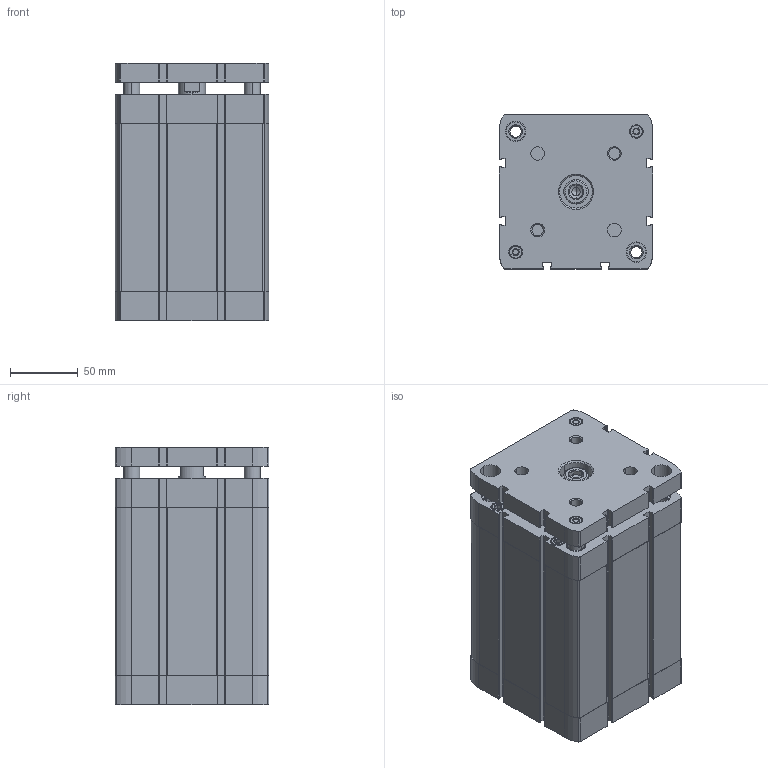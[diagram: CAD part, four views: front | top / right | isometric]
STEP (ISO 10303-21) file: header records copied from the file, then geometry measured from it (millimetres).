
FILE_DESCRIPTION (( 'STEP AP203' ), '1' );
FILE_NAME ('CCNG100-100.STEP', '2017-04-20T18:20:00', ( '' ), ( '' ), 'SwSTEP 2.0', 'SolidWorks 2016', '' );
FILE_SCHEMA (( 'CONFIG_CONTROL_DESIGN' ));
Length unit declared in the file: millimetre
Products named in the file (3): CCNG-100-100----(KS); CCNG100-100; CCNG-100-100---(Z)
Assembly tree (2 placements, depth 2):
  CCNG100-100
    CCNG-100-100---(Z)
    CCNG-100-100----(KS)
Bounding box: 113.5 x 113.5 x 190 mm (x, y, z)
Volume: 1448633.7 mm3; surface area: 275972.3 mm2
Topology: 2 solids, 4 shells, 797 faces, 2096 edges, 1345 vertices
Faces by surface type: plane 343, cylinder 304, cone 144, bspline 6
Entity records: 25477 total; most frequent: CARTESIAN_POINT 5009, DIRECTION 4394, ORIENTED_EDGE 4156, EDGE_CURVE 2078, AXIS2_PLACEMENT_3D 1614, VERTEX_POINT 1345, VECTOR 1166, LINE 1166
